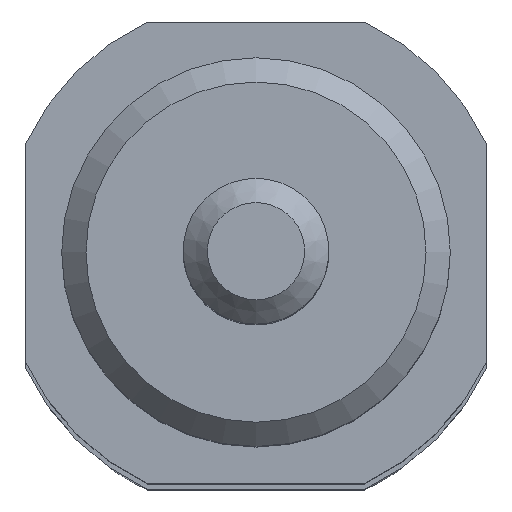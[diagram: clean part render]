
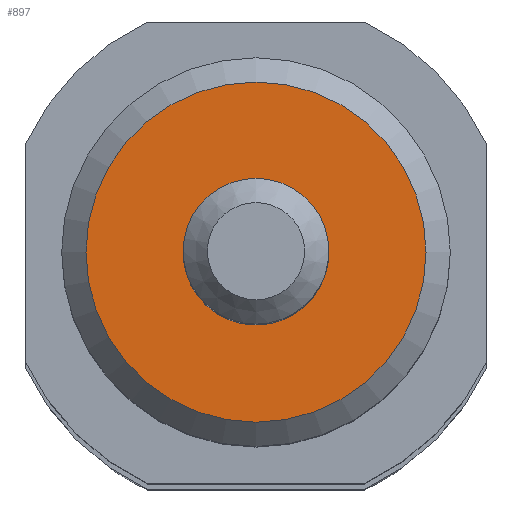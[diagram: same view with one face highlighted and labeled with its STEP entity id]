
A CAD part, top view. The second image highlights one B-rep face of the part: STEP entity #897.
In plain terms, the highlighted planar face has unit normal (0, 0, 1).
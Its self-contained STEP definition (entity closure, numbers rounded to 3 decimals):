
#835=CARTESIAN_POINT('',(7.,0.,183.));
#836=VERTEX_POINT('',#835);
#837=CARTESIAN_POINT('',(0.,0.,183.));
#838=DIRECTION('',(0.0,0.0,-1.0));
#839=DIRECTION('',(-1.0,0.0,0.0));
#840=AXIS2_PLACEMENT_3D('',#837,#838,#839);
#841=CIRCLE('',#840,7.);
#842=EDGE_CURVE('',#836,#836,#841,.T.);
#878=CARTESIAN_POINT('',(0.,0.,183.));
#879=DIRECTION('',(0.0,0.0,-1.0));
#880=DIRECTION('',(-1.0,0.0,0.0));
#881=AXIS2_PLACEMENT_3D('',#878,#879,#880);
#882=PLANE('',#881);
#883=ORIENTED_EDGE('',*,*,#842,.F.);
#884=EDGE_LOOP('',(#883));
#885=FACE_OUTER_BOUND('',#884,.T.);
#886=CARTESIAN_POINT('',(3.,0.,183.));
#887=VERTEX_POINT('',#886);
#888=CARTESIAN_POINT('',(0.,0.,183.));
#889=DIRECTION('',(0.0,0.0,-1.0));
#890=DIRECTION('',(-1.0,0.0,0.0));
#891=AXIS2_PLACEMENT_3D('',#888,#889,#890);
#892=CIRCLE('',#891,3.);
#893=EDGE_CURVE('',#887,#887,#892,.T.);
#894=ORIENTED_EDGE('',*,*,#893,.T.);
#895=EDGE_LOOP('',(#894));
#896=FACE_BOUND('',#895,.T.);
#897=ADVANCED_FACE('',(#885,#896),#882,.F.);
